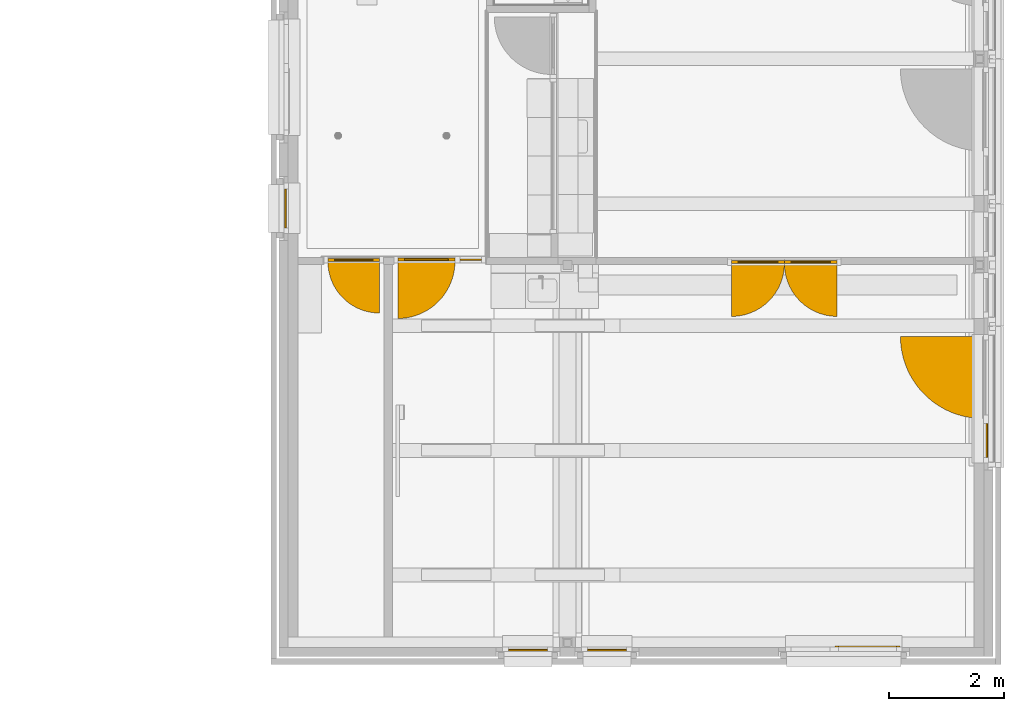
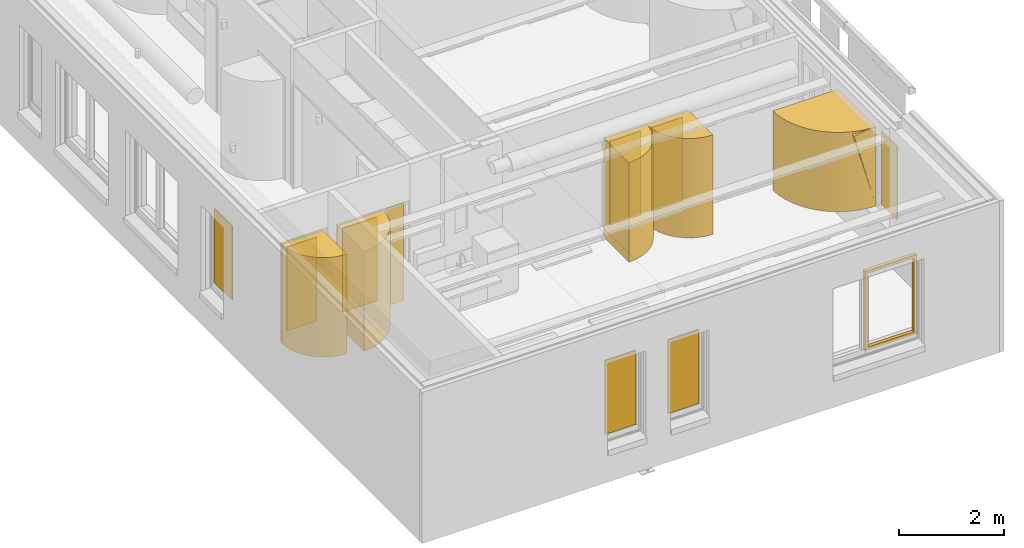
# One storey, part 62 of 128: 15 windows, 4 doors, 4 elements without a shape of their own.
"""IFC2X3 building model written with IfcOpenShell, lengths in millimetres."""

from ifc_helpers import new_model, entity, si_unit, converted_unit, derived_unit, direction, frame, frame_2d, origin, origin_2d_with_axis, place, context, subcontext, project, spatial, polyline, circle_curve, parameter, trimmed, segment, composite_curve, rectangle, outline, extrude, source, transform, mapped, material, type_object, type_shapes, element, aggregate, save


model = new_model("IFC2X3")

# Units and contexts
model_context = context("Model", 3, precision=0.01, world=origin(), true_north=direction((6.123031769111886e-17, 1.0)))
body_context = subcontext(model_context, "Body", "Model", "MODEL_VIEW")
ifc_project = project(units=[si_unit("LENGTHUNIT", "METRE", prefix="MILLI"), si_unit("AREAUNIT", "SQUARE_METRE"), si_unit("VOLUMEUNIT", "CUBIC_METRE"), converted_unit("PLANEANGLEUNIT", "DEGREE", entity("IfcRatioMeasure", 0.017453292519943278), si_unit("PLANEANGLEUNIT", "RADIAN"), dimensions=[0, 0, 0, 0, 0, 0, 0]), si_unit("MASSUNIT", "GRAM", prefix="KILO"), derived_unit("MASSDENSITYUNIT", [(si_unit("MASSUNIT", "GRAM", prefix="KILO"), 1), (si_unit("LENGTHUNIT", "METRE"), -3)]), derived_unit("IONCONCENTRATIONUNIT", [(si_unit("MASSUNIT", "GRAM", prefix="KILO"), 1), (si_unit("LENGTHUNIT", "METRE"), -3)]), derived_unit("MOMENTOFINERTIAUNIT", [(si_unit("LENGTHUNIT", "METRE"), 4)]), si_unit("TIMEUNIT", "SECOND"), si_unit("FREQUENCYUNIT", "HERTZ"), si_unit("THERMODYNAMICTEMPERATUREUNIT", "DEGREE_CELSIUS"), derived_unit("THERMALTRANSMITTANCEUNIT", [(si_unit("MASSUNIT", "GRAM", prefix="KILO"), 1), (si_unit("THERMODYNAMICTEMPERATUREUNIT", "KELVIN"), -1), (si_unit("TIMEUNIT", "SECOND"), -3)]), derived_unit("THERMALCONDUCTANCEUNIT", [(si_unit("MASSUNIT", "GRAM", prefix="KILO"), 1), (si_unit("THERMODYNAMICTEMPERATUREUNIT", "KELVIN"), -1), (si_unit("TIMEUNIT", "SECOND"), -3), (si_unit("LENGTHUNIT", "METRE"), 1)]), derived_unit("VOLUMETRICFLOWRATEUNIT", [(si_unit("LENGTHUNIT", "METRE"), 3), (si_unit("TIMEUNIT", "SECOND"), -1)]), derived_unit("MASSFLOWRATEUNIT", [(si_unit("MASSUNIT", "GRAM", prefix="KILO"), 1), (si_unit("TIMEUNIT", "SECOND"), -1)]), derived_unit("ROTATIONALFREQUENCYUNIT", [(si_unit("TIMEUNIT", "SECOND"), -1)]), si_unit("ELECTRICCURRENTUNIT", "AMPERE"), si_unit("ELECTRICVOLTAGEUNIT", "VOLT"), si_unit("POWERUNIT", "WATT"), si_unit("FORCEUNIT", "NEWTON", prefix="KILO"), si_unit("ILLUMINANCEUNIT", "LUX"), si_unit("LUMINOUSFLUXUNIT", "LUMEN"), si_unit("LUMINOUSINTENSITYUNIT", "CANDELA"), derived_unit("USERDEFINED", [(si_unit("MASSUNIT", "GRAM", prefix="KILO"), -1), (si_unit("LENGTHUNIT", "METRE"), -2), (si_unit("TIMEUNIT", "SECOND"), 3), (si_unit("LUMINOUSFLUXUNIT", "LUMEN"), 1)]), derived_unit("USERDEFINED", [(si_unit("MASSUNIT", "GRAM", prefix="KILO"), 1), (si_unit("TIMEUNIT", "SECOND"), -3), (si_unit("LENGTHUNIT", "METRE"), 3), (si_unit("ELECTRICCURRENTUNIT", "AMPERE"), -2)]), derived_unit("SOUNDPOWERUNIT", [(si_unit("MASSUNIT", "GRAM", prefix="KILO"), 1), (si_unit("TIMEUNIT", "SECOND"), -3), (si_unit("LENGTHUNIT", "METRE"), 2)]), derived_unit("SOUNDPRESSUREUNIT", [(si_unit("MASSUNIT", "GRAM", prefix="KILO"), 1), (si_unit("LENGTHUNIT", "METRE"), -1), (si_unit("TIMEUNIT", "SECOND"), -2)]), derived_unit("LINEARVELOCITYUNIT", [(si_unit("LENGTHUNIT", "METRE"), 1), (si_unit("TIMEUNIT", "SECOND"), -1)]), si_unit("PRESSUREUNIT", "PASCAL"), derived_unit("USERDEFINED", [(si_unit("MASSUNIT", "GRAM", prefix="KILO"), 1), (si_unit("LENGTHUNIT", "METRE"), -2), (si_unit("TIMEUNIT", "SECOND"), -2)]), derived_unit("LINEARFORCEUNIT", [(si_unit("MASSUNIT", "GRAM", prefix="KILO"), 1), (si_unit("TIMEUNIT", "SECOND"), -2)]), derived_unit("PLANARFORCEUNIT", [(si_unit("MASSUNIT", "GRAM", prefix="KILO"), 1), (si_unit("LENGTHUNIT", "METRE"), -1), (si_unit("TIMEUNIT", "SECOND"), -2)]), derived_unit("SPECIFICHEATCAPACITYUNIT", [(si_unit("THERMODYNAMICTEMPERATUREUNIT", "KELVIN"), -1), (si_unit("LENGTHUNIT", "METRE"), 2), (si_unit("TIMEUNIT", "SECOND"), -2)]), derived_unit("HEATINGVALUEUNIT", [(si_unit("LENGTHUNIT", "METRE"), 2), (si_unit("TIMEUNIT", "SECOND"), -2)]), derived_unit("VAPORPERMEABILITYUNIT", [(si_unit("LENGTHUNIT", "METRE"), -1), (si_unit("TIMEUNIT", "SECOND"), 1)]), derived_unit("DYNAMICVISCOSITYUNIT", [(si_unit("MASSUNIT", "GRAM", prefix="KILO"), 1), (si_unit("TIMEUNIT", "SECOND"), -1), (si_unit("LENGTHUNIT", "METRE"), -1)]), derived_unit("THERMALEXPANSIONCOEFFICIENTUNIT", [(si_unit("THERMODYNAMICTEMPERATUREUNIT", "KELVIN"), -1)]), derived_unit("MODULUSOFELASTICITYUNIT", [(si_unit("MASSUNIT", "GRAM", prefix="KILO"), 1), (si_unit("LENGTHUNIT", "METRE"), -1), (si_unit("TIMEUNIT", "SECOND"), -2)]), derived_unit("ISOTHERMALMOISTURECAPACITYUNIT", [(si_unit("LENGTHUNIT", "METRE"), 3), (si_unit("MASSUNIT", "GRAM", prefix="KILO"), -1)]), derived_unit("MOISTUREDIFFUSIVITYUNIT", [(si_unit("TIMEUNIT", "SECOND"), -1), (si_unit("LENGTHUNIT", "METRE"), 2)])], contexts=[model_context])

# Site, building, storey
site_placement = place(None, frame((0.0, 300.0, 0.0)))
site = spatial("IfcSite", under=ifc_project, at=site_placement, Name="<Kadastrale nummers>", CompositionType="ELEMENT")
building_placement = place(site_placement, origin())
building = spatial("IfcBuilding", under=site, at=building_placement, CompositionType="ELEMENT")
storey_placement = place(building_placement, frame((0.0, 0.0, 3560.0000331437)))
storey = spatial("IfcBuildingStorey", under=building, at=storey_placement, Name="01 eerste verdieping", CompositionType="ELEMENT", Elevation=3560.0000331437)

# Window
ifc_material_1 = material(Name="Clearance Zones")
window_style_1 = type_object("IfcWindowStyle", Name="BU deur links:BU deur links", ConstructionType="NOTDEFINED", OperationType="NOTDEFINED", ParameterTakesPrecedence=False, Sizeable=False, material=ifc_material_1)
shared_shape_1 = source(origin(), body_context, "Body", "SweptSolid", [
    extrude(outline(composite_curve([segment(trimmed(circle_curve(frame_2d((300.0, 300.0), x_axis=(1.0, 0.0)), 900.0000000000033), [parameter(180.00000000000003)], [parameter(269.9999999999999)], True, "PARAMETER"), True, "CONTINUOUS"), segment(polyline([(300.0, -600.0), (300.0, 300.0)]), True, "CONTINUOUS"), segment(polyline([(300.0, 300.0), (-600.0, 300.0)]), True, "CONTINUOUS")], self_intersect=False)), frame((-150.0, 327.0, -20.0), z_axis=(0.0, 0.0, 1.0), x_axis=(-1.0, 0.0, 0.0)), (0.0, 0.0, 1.0), 2303.0000000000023),
])
type_shapes(window_style_1, [shared_shape_1])
window_1_placement = place(storey_placement, frame((37668.0, 9387.998623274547, 130.00000187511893), z_axis=(0.0, 0.0, 1.0), x_axis=(-1.0, 0.0, 0.0)))
element("IfcWindow", 1, at=window_1_placement, inside=storey, type_object=window_style_1, material=ifc_material_1, Name="BU deur links:BU deur links", ObjectType="BU deur links:BU deur links", OverallHeight=1184.0000000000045, OverallWidth=900.0000000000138, context=body_context, shape_type="MappedRepresentation", body=[
    mapped(shared_shape_1, transform((0.0, 0.0, 0.0), scale=1.0)),
])

# Curtain wall, doors
curtain_wall_type_1 = type_object("IfcCurtainWallType", Name="Curtain Wall:Merk H07", PredefinedType="NOTDEFINED")
curtain_wall_1_placement = place(storey_placement, frame((0.0, 0.0, -3560.0000331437)))
curtain_wall_1 = element("IfcCurtainWall", 2, at=curtain_wall_1_placement, inside=storey, type_object=curtain_wall_type_1, Name="Curtain Wall:Merk H07", ObjectType="Curtain Wall:Merk H07")
ifc_material_2 = material(Name="HPL F7853 ocean gray")
door_style_1 = type_object("IfcDoorStyle", Name="31_DO_deur_met_stapeldorpel:deur_met_stapeldorpel", ConstructionType="NOTDEFINED", OperationType="NOTDEFINED", ParameterTakesPrecedence=False, Sizeable=False, material=ifc_material_2)
shared_shape_2 = source(origin(), body_context, "Body", "SweptSolid", [
    extrude(outline(polyline([(-461.4999999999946, -1151.4999999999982), (461.4999999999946, -1151.4999999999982), (461.4999999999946, 1151.4999999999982), (-461.4999999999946, 1151.4999999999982), (-461.4999999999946, -1151.4999999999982)]), holes=[polyline([(-341.4999999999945, 911.499999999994), (341.4999999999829, 911.4999999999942), (341.499999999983, -1031.4999999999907), (-341.4999999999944, -1031.499999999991), (-341.4999999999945, 911.499999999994)])]), frame((0.0, 84.0, 1151.5000000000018), z_axis=(0.0, -1.0, 0.0), x_axis=(-1.0, 0.0, 0.0)), (0.0, 0.0, 1.0), 26.999999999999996),
    extrude(outline(polyline([(-461.4999999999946, -1151.4999999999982), (461.4999999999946, -1151.4999999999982), (461.4999999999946, 1151.4999999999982), (-461.4999999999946, 1151.4999999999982), (-461.4999999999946, -1151.4999999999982)]), holes=[polyline([(-341.49999999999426, 911.4999999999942), (341.49999999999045, 911.4999999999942), (341.49999999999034, -1031.4999999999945), (-341.4999999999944, -1031.4999999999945), (-341.49999999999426, 911.4999999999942)])]), frame((0.0, 57.0, 1151.5000000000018), z_axis=(0.0, -1.0, 0.0), x_axis=(-1.0, 0.0, 0.0)), (0.0, 0.0, 1.0), 26.99999999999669),
])
type_shapes(door_style_1, [shared_shape_2])
door_1_placement = place(curtain_wall_1_placement, frame((44728.49999999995, 9408.998623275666, 3670.0000350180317), z_axis=(0.0, 0.0, 1.0), x_axis=(-1.0, 0.0, 0.0)))
door_1 = element("IfcDoor", 3, at=door_1_placement, type_object=door_style_1, material=ifc_material_2, Name="31_DO_deur_met_stapeldorpel:deur_met_stapeldorpel", ObjectType="31_DO_deur_met_stapeldorpel:deur_met_stapeldorpel", OverallHeight=2303.0000000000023, OverallWidth=923.0000000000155, context=body_context, shape_type="MappedRepresentation", body=[
    mapped(shared_shape_2, transform((0.0, 0.0, 0.0), scale=1.0)),
])
door_style_2 = type_object("IfcDoorStyle", Name="31_DO_deur_met_stapeldorpel:deur_met_stapeldorpel", ConstructionType="NOTDEFINED", OperationType="NOTDEFINED", ParameterTakesPrecedence=False, Sizeable=False, material=ifc_material_2)
shared_shape_3 = source(origin(), body_context, "Body", "SweptSolid", [
    extrude(outline(polyline([(-461.49999999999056, -1151.499999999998), (461.4999999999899, -1151.499999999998), (461.49999999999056, 1151.499999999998), (-461.4999999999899, 1151.4999999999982), (-461.49999999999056, -1151.499999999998)]), holes=[polyline([(-341.4999999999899, 911.4999999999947), (341.4999999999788, 911.4999999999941), (341.4999999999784, -1031.4999999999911), (-341.49999999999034, -1031.499999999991), (-341.4999999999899, 911.4999999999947)])]), frame((0.0, 84.0, 1151.5000000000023), z_axis=(0.0, -1.0, 0.0), x_axis=(-1.0, 0.0, 0.0)), (0.0, 0.0, 1.0), 26.999999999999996),
    extrude(outline(polyline([(-461.49999999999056, -1151.499999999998), (461.4999999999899, -1151.499999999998), (461.49999999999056, 1151.499999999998), (-461.4999999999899, 1151.4999999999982), (-461.49999999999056, -1151.499999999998)]), holes=[polyline([(-341.49999999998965, 911.4999999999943), (341.4999999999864, 911.4999999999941), (341.49999999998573, -1031.4999999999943), (-341.49999999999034, -1031.4999999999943), (-341.49999999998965, 911.4999999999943)])]), frame((0.0, 57.0, 1151.5000000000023), z_axis=(0.0, -1.0, 0.0), x_axis=(-1.0, 0.0, 0.0)), (0.0, 0.0, 1.0), 26.99999999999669),
])
type_shapes(door_style_2, [shared_shape_3])
door_2_placement = place(curtain_wall_1_placement, frame((45651.49999999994, 9408.998623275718, 3670.0000350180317), z_axis=(0.0, 0.0, 1.0), x_axis=(-1.0, 0.0, 0.0)))
door_2 = element("IfcDoor", 4, at=door_2_placement, type_object=door_style_2, material=ifc_material_2, Name="31_DO_deur_met_stapeldorpel:deur_met_stapeldorpel", ObjectType="31_DO_deur_met_stapeldorpel:deur_met_stapeldorpel", OverallHeight=2303.000000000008, OverallWidth=923.000000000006, context=body_context, shape_type="MappedRepresentation", body=[
    mapped(shared_shape_3, transform((0.0, 0.0, 0.0), scale=1.0)),
])
aggregate(curtain_wall_1, [door_1, door_2])

# Window
ifc_material_3 = material(Name="glas_enscape")
window_style_2 = type_object("IfcWindowStyle", Name="WI_subvak1:glas 2", ConstructionType="NOTDEFINED", OperationType="NOTDEFINED", ParameterTakesPrecedence=False, Sizeable=False, material=ifc_material_3)
shared_shape_4 = source(origin(), body_context, "Body", "SweptSolid", [
    extrude(rectangle(XDim=660.0000000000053, YDim=24.00000000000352, at=origin_2d_with_axis()), origin(), (0.0, 0.0, 1.0), 1942.999999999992),
])
type_shapes(window_style_2, [shared_shape_4])
window_2_placement = place(storey_placement, frame((37668.0, 9387.998623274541, 350.00000187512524)))
element("IfcWindow", 5, at=window_2_placement, inside=storey, type_object=window_style_2, material=ifc_material_3, Name="WI_subvak1:glas 2", ObjectType="WI_subvak1:glas 2", OverallHeight=609.9286498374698, OverallWidth=660.0000000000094, context=body_context, shape_type="MappedRepresentation", body=[
    mapped(shared_shape_4, transform((0.0, 0.0, 0.0), scale=1.0)),
])

# Curtain wall, door
curtain_wall_type_2 = type_object("IfcCurtainWallType", Name="Curtain Wall:Merk H18", PredefinedType="NOTDEFINED")
curtain_wall_2_placement = place(storey_placement, frame((0.0, 0.0, -3560.0000331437)))
curtain_wall_2 = element("IfcCurtainWall", 6, at=curtain_wall_2_placement, inside=storey, type_object=curtain_wall_type_2, Name="Curtain Wall:Merk H18", ObjectType="Curtain Wall:Merk H18")
door_style_3 = type_object("IfcDoorStyle", Name="31_DO_deur_met_stapeldorpel:deur_met_stapeldorpel", ConstructionType="NOTDEFINED", OperationType="NOTDEFINED", ParameterTakesPrecedence=False, Sizeable=False, material=ifc_material_2)
shared_shape_5 = source(origin(), body_context, "Body", "SweptSolid", [
    extrude(outline(polyline([(-500.0, -1151.4999999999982), (500.0, -1151.4999999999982), (500.0, 1151.4999999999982), (-500.0, 1151.4999999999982), (-500.0, -1151.4999999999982)]), holes=[polyline([(-380.0, 911.499999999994), (380.0, 911.4999999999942), (380.0, -1031.4999999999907), (-380.0, -1031.499999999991), (-380.0, 911.499999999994)])]), frame((0.0, 57.0, 1151.5000000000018), z_axis=(0.0, 1.0, 0.0), x_axis=(1.0, 0.0, 0.0)), (0.0, 0.0, 1.0), 26.999999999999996),
    extrude(outline(polyline([(-500.0, -1151.4999999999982), (500.0, -1151.4999999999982), (500.0, 1151.4999999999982), (-500.0, 1151.4999999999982), (-500.0, -1151.4999999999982)]), holes=[polyline([(-380.0, 911.4999999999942), (380.0, 911.4999999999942), (380.0, -1031.4999999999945), (-380.0, -1031.4999999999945), (-380.0, 911.4999999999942)])]), frame((0.0, 30.0, 1151.5000000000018), z_axis=(0.0, 1.0, 0.0), x_axis=(1.0, 0.0, 0.0)), (0.0, 0.0, 1.0), 26.99999999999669),
])
type_shapes(door_style_3, [shared_shape_5])
door_3_placement = place(curtain_wall_2_placement, frame((38938.24999999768, 9449.998623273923, 3670.000035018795), z_axis=(0.0, 0.0, 1.0), x_axis=(-1.0, 0.0, 0.0)))
door_3 = element("IfcDoor", 7, at=door_3_placement, type_object=door_style_3, material=ifc_material_2, Name="31_DO_deur_met_stapeldorpel:deur_met_stapeldorpel", ObjectType="31_DO_deur_met_stapeldorpel:deur_met_stapeldorpel", OverallHeight=2303.0000000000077, OverallWidth=1000.0000000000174, context=body_context, shape_type="MappedRepresentation", body=[
    mapped(shared_shape_5, transform((0.0, 0.0, 0.0), scale=1.0)),
])
aggregate(curtain_wall_2, [door_3])

# Windows
window_style_3 = type_object("IfcWindowStyle", Name="WI_subvak1:glas 4", ConstructionType="NOTDEFINED", OperationType="NOTDEFINED", ParameterTakesPrecedence=False, Sizeable=False, material=ifc_material_3)
shared_shape_6 = source(origin(), body_context, "Body", "SweptSolid", [
    extrude(rectangle(XDim=24.000000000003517, YDim=375.99999999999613, at=origin_2d_with_axis()), frame((0.0, 0.0, 0.0), z_axis=(0.0, 0.0, 1.0), x_axis=(0.0, -1.0, 0.0)), (0.0, 0.0, 1.0), 2255.9999999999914),
])
type_shapes(window_style_3, [shared_shape_6])
window_3_placement = place(storey_placement, frame((39716.249999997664, 9392.998623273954, 157.00000187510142), z_axis=(0.0, 0.0, 1.0), x_axis=(-1.0, 0.0, 0.0)))
element("IfcWindow", 8, at=window_3_placement, inside=storey, type_object=window_style_3, material=ifc_material_3, Name="WI_subvak1:glas 4", ObjectType="WI_subvak1:glas 4", OverallHeight=609.9286498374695, OverallWidth=376.0000000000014, context=body_context, shape_type="MappedRepresentation", body=[
    mapped(shared_shape_6, transform((0.0, 0.0, 0.0), scale=1.0)),
])
window_style_4 = type_object("IfcWindowStyle", Name="BU deur links:BU deur links", ConstructionType="NOTDEFINED", OperationType="NOTDEFINED", ParameterTakesPrecedence=False, Sizeable=False, material=ifc_material_1)
shared_shape_7 = source(origin(), body_context, "Body", "SweptSolid", [
    extrude(outline(composite_curve([segment(polyline([(-666.6666666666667, -333.33333333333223), (333.3333333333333, -333.33333333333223)]), True, "CONTINUOUS"), segment(polyline([(333.3333333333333, -333.33333333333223), (333.33333333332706, 666.6666666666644)]), True, "CONTINUOUS"), segment(trimmed(circle_curve(frame_2d((333.3333333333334, -333.33333333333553), x_axis=(1.0, 0.0)), 1000.0000000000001), [parameter(90.00000000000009)], [parameter(179.99999999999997)], True, "PARAMETER"), True, "CONTINUOUS")], self_intersect=False)), frame((-166.66666666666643, -360.3333333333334, -20.0), z_axis=(0.0, 0.0, 1.0), x_axis=(-1.0, 0.0, 0.0)), (0.0, 0.0, 1.0), 2303.0000000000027),
])
type_shapes(window_style_4, [shared_shape_7])
window_4_placement = place(storey_placement, frame((38938.24999999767, 9392.99862327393, 130.00000187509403)))
element("IfcWindow", 9, at=window_4_placement, inside=storey, type_object=window_style_4, material=ifc_material_1, Name="BU deur links:BU deur links", ObjectType="BU deur links:BU deur links", OverallHeight=1284.0000000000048, OverallWidth=1000.0000000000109, context=body_context, shape_type="MappedRepresentation", body=[
    mapped(shared_shape_7, transform((0.0, 0.0, 0.0), scale=1.0)),
])
window_style_5 = type_object("IfcWindowStyle", Name="WI_subvak1:glas 2", ConstructionType="NOTDEFINED", OperationType="NOTDEFINED", ParameterTakesPrecedence=False, Sizeable=False, material=ifc_material_3)
shared_shape_8 = source(origin(), body_context, "Body", "SweptSolid", [
    extrude(rectangle(XDim=24.000000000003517, YDim=759.9999999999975, at=frame_2d((0.0, -2.842170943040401e-14), x_axis=(1.0, 0.0))), frame((0.0, 0.0, 0.0), z_axis=(0.0, 0.0, 1.0), x_axis=(0.0, -1.0, 0.0)), (0.0, 0.0, 1.0), 1942.999999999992),
])
type_shapes(window_style_5, [shared_shape_8])
window_5_placement = place(storey_placement, frame((38938.24999999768, 9392.998623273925, 350.00000187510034), z_axis=(0.0, 0.0, 1.0), x_axis=(-1.0, 0.0, 0.0)))
element("IfcWindow", 10, at=window_5_placement, inside=storey, type_object=window_style_5, material=ifc_material_3, Name="WI_subvak1:glas 2", ObjectType="WI_subvak1:glas 2", OverallHeight=609.9286498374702, OverallWidth=760.0000000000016, context=body_context, shape_type="MappedRepresentation", body=[
    mapped(shared_shape_8, transform((0.0, 0.0, 0.0), scale=1.0)),
])
window_style_6 = type_object("IfcWindowStyle", Name="WI_subvak1:glas 2", ConstructionType="NOTDEFINED", OperationType="NOTDEFINED", ParameterTakesPrecedence=False, Sizeable=False, material=ifc_material_3)
shared_shape_9 = source(origin(), body_context, "Body", "SweptSolid", [
    extrude(rectangle(XDim=683.000000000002, YDim=24.000000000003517, at=frame_2d((0.0, -8.881784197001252e-16), x_axis=(1.0, 0.0))), origin(), (0.0, 0.0, 1.0), 1942.999999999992),
])
type_shapes(window_style_6, [shared_shape_9])
for number, where, name in (
    (11, (44728.49999999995, 9351.998623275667, 350.00000187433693), "WI_subvak1:glas 2"),
    (12, (45651.49999999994, 9351.99862327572, 350.00000187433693), "WI_subvak1:glas 2"),
):
    element("IfcWindow", number, at=place(storey_placement, frame(where)), inside=storey, type_object=window_style_6, material=ifc_material_3, Name=name, ObjectType="WI_subvak1:glas 2", OverallHeight=609.9286498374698, OverallWidth=683.000000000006, context=body_context, shape_type="MappedRepresentation", body=[
        mapped(shared_shape_9, transform((0.0, 0.0, 0.0), scale=1.0)),
    ])
window_style_7 = type_object("IfcWindowStyle", Name="BU deur rechts:BU deur rechts", ConstructionType="NOTDEFINED", OperationType="NOTDEFINED", ParameterTakesPrecedence=False, Sizeable=False, material=ifc_material_1)
shared_shape_10 = source(origin(), body_context, "Body", "SweptSolid", [
    extrude(outline(composite_curve([segment(polyline([(-615.3333333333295, -307.66666666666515), (307.66666666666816, -307.6666666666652)]), True, "CONTINUOUS"), segment(polyline([(307.66666666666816, -307.6666666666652), (307.6666666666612, 615.3333333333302)]), True, "CONTINUOUS"), segment(trimmed(circle_curve(frame_2d((307.6666666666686, -307.66666666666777), x_axis=(1.0, 0.0)), 922.9999999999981), [parameter(90.00000000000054)], [parameter(180.0)], True, "PARAMETER"), True, "CONTINUOUS")], self_intersect=False)), frame((153.83333333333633, 334.66666666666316, 0.0)), (0.0, 0.0, 1.0), 2302.999999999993),
])
type_shapes(window_style_7, [shared_shape_10])
window_6_placement = place(storey_placement, frame((44728.499999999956, 9351.998623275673, 110.00000187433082), z_axis=(0.0, 0.0, 1.0), x_axis=(-1.0, 0.0, 0.0)))
element("IfcWindow", 13, at=window_6_placement, inside=storey, type_object=window_style_7, material=ifc_material_1, Name="BU deur rechts:BU deur rechts", ObjectType="BU deur rechts:BU deur rechts", OverallHeight=1207.0000000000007, OverallWidth=923.0000000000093, context=body_context, shape_type="MappedRepresentation", body=[
    mapped(shared_shape_10, transform((0.0, 0.0, 0.0), scale=1.0)),
])
window_style_8 = type_object("IfcWindowStyle", Name="BU deur links:BU deur links", ConstructionType="NOTDEFINED", OperationType="NOTDEFINED", ParameterTakesPrecedence=False, Sizeable=False, material=ifc_material_1)
shared_shape_11 = source(origin(), body_context, "Body", "SweptSolid", [
    extrude(outline(composite_curve([segment(trimmed(circle_curve(frame_2d((307.6666666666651, 307.6666666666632), x_axis=(1.0, 0.0)), 922.9999999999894), [parameter(180.00000000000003)], [parameter(269.9999999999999)], True, "PARAMETER"), True, "CONTINUOUS"), segment(polyline([(307.66666666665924, -615.3333333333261), (307.66666666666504, 307.6666666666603)]), True, "CONTINUOUS"), segment(polyline([(307.66666666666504, 307.6666666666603), (-615.3333333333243, 307.6666666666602)]), True, "CONTINUOUS")], self_intersect=False)), frame((-153.83333333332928, 334.6666666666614, -20.0), z_axis=(0.0, 0.0, 1.0), x_axis=(-1.0, 0.0, 0.0)), (0.0, 0.0, 1.0), 2303.000000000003),
])
type_shapes(window_style_8, [shared_shape_11])
window_7_placement = place(storey_placement, frame((45651.49999999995, 9351.998623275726, 130.00000187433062), z_axis=(0.0, 0.0, 1.0), x_axis=(-1.0, 0.0, 0.0)))
element("IfcWindow", 14, at=window_7_placement, inside=storey, type_object=window_style_8, material=ifc_material_1, Name="BU deur links:BU deur links", ObjectType="BU deur links:BU deur links", OverallHeight=1206.9999999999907, OverallWidth=923.0, context=body_context, shape_type="MappedRepresentation", body=[
    mapped(shared_shape_11, transform((0.0, 0.0, 0.0), scale=1.0)),
])

# Curtain wall, door
curtain_wall_type_3 = type_object("IfcCurtainWallType", Name="Curtain Wall:Merk H16", PredefinedType="NOTDEFINED")
curtain_wall_3_placement = place(storey_placement, frame((0.0, 0.0, -3560.0000331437)))
curtain_wall_3 = element("IfcCurtainWall", 15, at=curtain_wall_3_placement, inside=storey, type_object=curtain_wall_type_3, Name="Curtain Wall:Merk H16", ObjectType="Curtain Wall:Merk H16")
door_style_4 = type_object("IfcDoorStyle", Name="31_DO_deur_met_stapeldorpel:deur_met_stapeldorpel", ConstructionType="NOTDEFINED", OperationType="NOTDEFINED", ParameterTakesPrecedence=False, Sizeable=False, material=ifc_material_2)
shared_shape_12 = source(origin(), body_context, "Body", "SweptSolid", [
    extrude(outline(polyline([(-450.0, -1151.4999999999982), (450.0, -1151.4999999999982), (450.0, 1151.4999999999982), (-450.0, 1151.4999999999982), (-450.0, -1151.4999999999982)]), holes=[polyline([(-330.0, 911.499999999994), (330.0, 911.4999999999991), (330.0, -1031.4999999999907), (-330.0, -1031.499999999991), (-330.0, 911.499999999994)])]), frame((0.0, 84.0, 1151.5000000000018), z_axis=(0.0, -1.0, 0.0), x_axis=(-1.0, 0.0, 0.0)), (0.0, 0.0, 1.0), 26.999999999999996),
    extrude(outline(polyline([(-450.0, -1151.4999999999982), (450.0, -1151.4999999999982), (450.0, 1151.4999999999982), (-450.0, 1151.4999999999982), (-450.0, -1151.4999999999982)]), holes=[polyline([(-330.0, 911.4999999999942), (330.0, 911.4999999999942), (330.0, -1031.4999999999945), (-330.0, -1031.4999999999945), (-330.0, 911.4999999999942)])]), frame((0.0, 57.0, 1151.5000000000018), z_axis=(0.0, -1.0, 0.0), x_axis=(-1.0, 0.0, 0.0)), (0.0, 0.0, 1.0), 26.99999999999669),
])
type_shapes(door_style_4, [shared_shape_12])
door_4_placement = place(curtain_wall_3_placement, frame((37668.0, 9444.99862327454, 3670.00003501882), z_axis=(0.0, 0.0, 1.0), x_axis=(-1.0, 0.0, 0.0)))
door_4 = element("IfcDoor", 16, at=door_4_placement, type_object=door_style_4, material=ifc_material_2, Name="31_DO_deur_met_stapeldorpel:deur_met_stapeldorpel", ObjectType="31_DO_deur_met_stapeldorpel:deur_met_stapeldorpel", OverallHeight=2303.0000000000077, OverallWidth=900.0000000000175, context=body_context, shape_type="MappedRepresentation", body=[
    mapped(shared_shape_12, transform((0.0, 0.0, 0.0), scale=1.0)),
])
aggregate(curtain_wall_3, [door_4])

# Curtain wall, window
curtain_wall_type_4 = type_object("IfcCurtainWallType", Name="Curtain Wall:K_24", PredefinedType="NOTDEFINED")
curtain_wall_4_placement = place(storey_placement, frame((0.0, 0.0, -3560.0000331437)))
curtain_wall_4 = element("IfcCurtainWall", 17, at=curtain_wall_4_placement, inside=storey, type_object=curtain_wall_type_4, Name="Curtain Wall:K_24", ObjectType="Curtain Wall:K_24")
ifc_material_4 = material(Name="ISR_Aluminium")
window_style_9 = type_object("IfcWindowStyle", Name="31_WI_raam_1:GEALAN KUBUS RAAM", ConstructionType="NOTDEFINED", OperationType="NOTDEFINED", ParameterTakesPrecedence=False, Sizeable=False, material=ifc_material_4)
shared_shape_13 = source(origin(), body_context, "Body", "SweptSolid", [
    extrude(outline(polyline([(-567.0, -919.0), (567.0, -919.0), (567.0, 919.0), (-567.0, 919.0), (-567.0, -919.0)]), holes=[polyline([(-503.0, 855.0), (503.0, 855.0), (503.0, -855.0), (-503.0, -855.0), (-503.0, 855.0)])]), frame((0.0, 63.0, 855.0), z_axis=(0.0, -1.0, 0.0), x_axis=(-1.0, 0.0, 0.0)), (0.0, 0.0, 1.0), 40.50000000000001),
    extrude(outline(polyline([(-567.0, -919.0), (567.0, -919.0), (567.0, 919.0), (-567.0, 919.0), (-567.0, -919.0)]), holes=[polyline([(-503.0, 855.0), (503.0, 855.0), (503.0, -855.0), (-503.0, -855.0), (-503.0, 855.0)])]), frame((0.0, 22.499999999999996, 855.0), z_axis=(0.0, -1.0, 0.0), x_axis=(-1.0, 0.0, 0.0)), (0.0, 0.0, 1.0), 40.5),
])
type_shapes(window_style_9, [shared_shape_13])
window_8_placement = place(curtain_wall_4_placement, frame((46642.0, 2631.998623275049, 4580.0000331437), z_axis=(0.0, 0.0, 1.0), x_axis=(-1.0, 0.0, 0.0)))
window_8 = element("IfcWindow", 18, at=window_8_placement, type_object=window_style_9, material=ifc_material_4, Name="31_WI_raam_1:GEALAN KUBUS RAAM", ObjectType="31_WI_raam_1:GEALAN KUBUS RAAM", OverallHeight=1854.0000000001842, OverallWidth=1134.0000000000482, context=body_context, shape_type="MappedRepresentation", body=[
    mapped(shared_shape_13, transform((0.0, 0.0, 0.0), scale=1.0)),
])
aggregate(curtain_wall_4, [window_8])

# Windows
window_style_10 = type_object("IfcWindowStyle", Name="WI_subvak1:glas 4", ConstructionType="NOTDEFINED", OperationType="NOTDEFINED", ParameterTakesPrecedence=False, Sizeable=False, material=ifc_material_3)
shared_shape_14 = source(origin(), body_context, "Body", "SweptSolid", [
    extrude(rectangle(XDim=680.000000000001, YDim=24.00000000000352, at=origin_2d_with_axis()), origin(), (0.0, 0.0, 1.0), 1710.0000000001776),
])
type_shapes(window_style_10, [shared_shape_14])
window_9_placement = place(storey_placement, frame((36475.0, 10290.0, 1020.0), z_axis=(0.0, 0.0, 1.0), x_axis=(0.0, -1.0, 0.0)))
element("IfcWindow", 19, at=window_9_placement, inside=storey, type_object=window_style_10, material=ifc_material_3, Name="WI_subvak1:glas 4", ObjectType="WI_subvak1:glas 4", OverallHeight=609.9286498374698, OverallWidth=680.0000000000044, context=body_context, shape_type="MappedRepresentation", body=[
    mapped(shared_shape_14, transform((0.0, 0.0, 0.0), scale=1.0)),
])
for number, where, name in (
    (20, (40710.0, 2574.998623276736, 1020.0), "WI_subvak1:glas 4"),
    (21, (42090.0, 2574.9986232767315, 1020.0), "WI_subvak1:glas 4"),
):
    element("IfcWindow", number, at=place(storey_placement, frame(where)), inside=storey, type_object=window_style_10, material=ifc_material_3, Name=name, ObjectType="WI_subvak1:glas 4", OverallHeight=609.9286498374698, OverallWidth=680.0000000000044, context=body_context, shape_type="MappedRepresentation", body=[
        mapped(shared_shape_14, transform((0.0, 0.0, 0.0), scale=1.0)),
    ])
window_style_11 = type_object("IfcWindowStyle", Name="WI_subvak1:glas 4", ConstructionType="NOTDEFINED", OperationType="NOTDEFINED", ParameterTakesPrecedence=False, Sizeable=False, material=ifc_material_3)
shared_shape_15 = source(origin(), body_context, "Body", "SweptSolid", [
    extrude(rectangle(XDim=590.000000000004, YDim=24.00000000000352, at=frame_2d((0.0, -1.7763568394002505e-15), x_axis=(1.0, 0.0))), origin(), (0.0, 0.0, 1.0), 1709.9999649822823),
])
type_shapes(window_style_11, [shared_shape_15])
window_10_placement = place(storey_placement, frame((48725.0, 6235.0, 1020.0), z_axis=(0.0, 0.0, 1.0), x_axis=(0.0, 1.0, 0.0)))
element("IfcWindow", 22, at=window_10_placement, inside=storey, type_object=window_style_11, material=ifc_material_3, Name="WI_subvak1:glas 4", ObjectType="WI_subvak1:glas 4", OverallHeight=609.9286498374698, OverallWidth=590.0000000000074, context=body_context, shape_type="MappedRepresentation", body=[
    mapped(shared_shape_15, transform((0.0, 0.0, 0.0), scale=1.0)),
])
window_style_12 = type_object("IfcWindowStyle", Name="BI draai-val rechts:BI draai-val rechts", ConstructionType="NOTDEFINED", OperationType="NOTDEFINED", ParameterTakesPrecedence=False, Sizeable=False, material=ifc_material_1)
shared_shape_16 = source(origin(), body_context, "Body", "SweptSolid", [
    extrude(outline(composite_curve([segment(trimmed(circle_curve(frame_2d((1204.4571999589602, 158.5697986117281), x_axis=(1.0, 0.0)), 1837.999964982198), [parameter(180.00000000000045)], [parameter(195.00000000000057)], True, "PARAMETER"), True, "CONTINUOUS"), segment(polyline([(-570.914434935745, -317.1395972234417), (1204.4571999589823, 158.56979861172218)]), True, "CONTINUOUS"), segment(polyline([(1204.4571999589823, 158.56979861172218), (-633.5427650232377, 158.56979861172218)]), True, "CONTINUOUS")], self_intersect=False)), frame((-717.0, -199.06979861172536, 1184.4571999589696), z_axis=(1.0, 0.0, 0.0), x_axis=(0.0, 0.0, -1.0)), (0.0, 0.0, 1.0), 1434.0000000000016),
    extrude(outline(composite_curve([segment(polyline([(-956.0, -478.0), (478.0, -478.0)]), True, "CONTINUOUS"), segment(polyline([(478.0, -478.0), (478.0, 956.0)]), True, "CONTINUOUS"), segment(trimmed(circle_curve(frame_2d((478.0, -478.0), x_axis=(-1.0, 0.0)), 1434.000000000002), [parameter(270.0000000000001)], [parameter(0.0)], True, "PARAMETER"), True, "CONTINUOUS")], self_intersect=False)), frame((-239.0, -518.5000000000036, -20.0), z_axis=(0.0, 0.0, 1.0), x_axis=(-1.0, 0.0, 0.0)), (0.0, 0.0, 1.0), 1837.999964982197),
])
type_shapes(window_style_12, [shared_shape_16])
window_11_placement = place(storey_placement, frame((48690.49999999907, 7337.0, 976.0), z_axis=(0.0, 0.0, 1.0), x_axis=(0.0, -1.0, 0.0)))
element("IfcWindow", 23, at=window_11_placement, inside=storey, type_object=window_style_12, material=ifc_material_1, Name="BI draai-val rechts:BI draai-val rechts", ObjectType="BI draai-val rechts:BI draai-val rechts", OverallHeight=1515.0000000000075, OverallWidth=1434.0000000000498, context=body_context, shape_type="MappedRepresentation", body=[
    mapped(shared_shape_16, transform((0.0, 0.0, 0.0), scale=1.0)),
])

save(model, "model.ifc")
